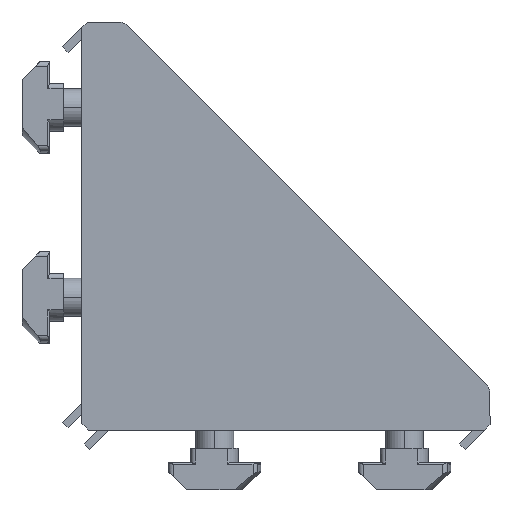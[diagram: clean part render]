
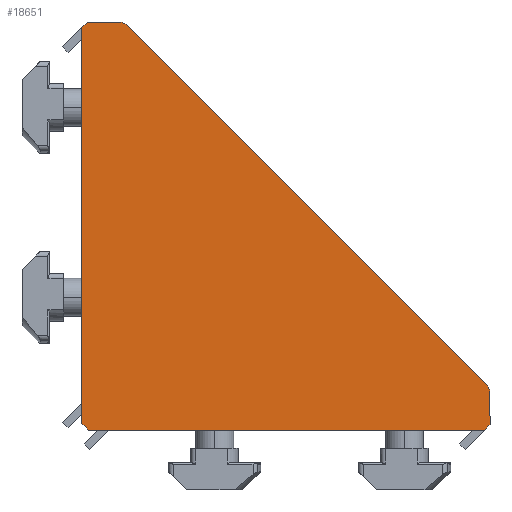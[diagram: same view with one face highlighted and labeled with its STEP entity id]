
A CAD part, left-side view. The second image highlights one B-rep face of the part: STEP entity #18651.
In plain terms, the highlighted planar face has unit normal (-1, 0, 0).
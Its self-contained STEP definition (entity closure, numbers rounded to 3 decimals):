
#61 = CARTESIAN_POINT ( 'NONE',  ( -44., 72.631, 85.414 ) ) ;
#143 = VERTEX_POINT ( 'NONE', #18752 ) ;
#1307 = CARTESIAN_POINT ( 'NONE',  ( -44., 80.822, 86. ) ) ;
#1527 = DIRECTION ( 'NONE',  ( 0., 0.707, 0.707 ) ) ;
#1631 = CARTESIAN_POINT ( 'NONE',  ( -44., 74.046, 84. ) ) ;
#2216 = EDGE_CURVE ( 'NONE', #15509, #15369, #12908, .T. ) ;
#2385 = VERTEX_POINT ( 'NONE', #14384 ) ;
#2519 = EDGE_CURVE ( 'NONE', #13224, #25805, #21765, .T. ) ;
#2779 = ORIENTED_EDGE ( 'NONE', *, *, #25426, .T. ) ;
#2787 = VECTOR ( 'NONE', #30116, 1000. ) ;
#2905 = DIRECTION ( 'NONE',  ( 0., -1., 0. ) ) ;
#3466 = DIRECTION ( 'NONE',  ( -1., 0., 0. ) ) ;
#3636 = VECTOR ( 'NONE', #13740, 1000. ) ;
#3797 = ORIENTED_EDGE ( 'NONE', *, *, #18262, .T. ) ;
#5599 = VERTEX_POINT ( 'NONE', #13646 ) ;
#5655 = CARTESIAN_POINT ( 'NONE',  ( -44., -2.883, 0. ) ) ;
#6056 = FACE_OUTER_BOUND ( 'NONE', #21539, .T. ) ;
#6239 = LINE ( 'NONE', #13423, #3636 ) ;
#6397 = DIRECTION ( 'NONE',  ( 0., 0., 1. ) ) ;
#6461 = DIRECTION ( 'NONE',  ( 0., 0., -1. ) ) ;
#6632 = EDGE_CURVE ( 'NONE', #143, #21025, #6783, .T. ) ;
#6783 = LINE ( 'NONE', #23963, #13823 ) ;
#7612 = EDGE_CURVE ( 'NONE', #12250, #2385, #24131, .T. ) ;
#7978 = DIRECTION ( 'NONE',  ( 0., -0.707, -0.707 ) ) ;
#8149 = CARTESIAN_POINT ( 'NONE',  ( -44., 81.97, 1.414 ) ) ;
#8498 = CARTESIAN_POINT ( 'NONE',  ( -44., 74.046, 84. ) ) ;
#8922 = ORIENTED_EDGE ( 'NONE', *, *, #2216, .T. ) ;
#10456 = DIRECTION ( 'NONE',  ( 0., 0., -1. ) ) ;
#10790 = PLANE ( 'NONE',  #24462 ) ;
#10987 = DIRECTION ( 'NONE',  ( 0., 0., 1. ) ) ;
#11297 = DIRECTION ( 'NONE',  ( 0., 0.707, -0.707 ) ) ;
#11609 = EDGE_CURVE ( 'NONE', #15369, #12250, #23748, .T. ) ;
#11641 = EDGE_CURVE ( 'NONE', #15509, #21025, #21397, .T. ) ;
#12250 = VERTEX_POINT ( 'NONE', #21505 ) ;
#12527 = CARTESIAN_POINT ( 'NONE',  ( -44., 74.046, 86. ) ) ;
#12728 = VERTEX_POINT ( 'NONE', #22111 ) ;
#12873 = LINE ( 'NONE', #8149, #24640 ) ;
#12888 = DIRECTION ( 'NONE',  ( 0., 0., 1. ) ) ;
#12908 = LINE ( 'NONE', #27655, #2787 ) ;
#13224 = VERTEX_POINT ( 'NONE', #15960 ) ;
#13265 = ORIENTED_EDGE ( 'NONE', *, *, #6632, .T. ) ;
#13423 = CARTESIAN_POINT ( 'NONE',  ( -44., -2.883, 0. ) ) ;
#13525 = AXIS2_PLACEMENT_3D ( 'NONE', #1631, #19323, #6397 ) ;
#13646 = CARTESIAN_POINT ( 'NONE',  ( -44., -4.03, 7.924 ) ) ;
#13740 = DIRECTION ( 'NONE',  ( 0., -0.707, 0.707 ) ) ;
#13823 = VECTOR ( 'NONE', #1527, 1000. ) ;
#14303 = CARTESIAN_POINT ( 'NONE',  ( -44., 81.97, 84. ) ) ;
#14384 = CARTESIAN_POINT ( 'NONE',  ( -44., 81.97, 1.414 ) ) ;
#15068 = CIRCLE ( 'NONE', #24497, 2. ) ;
#15326 = VECTOR ( 'NONE', #2905, 1000. ) ;
#15369 = VERTEX_POINT ( 'NONE', #28746 ) ;
#15509 = VERTEX_POINT ( 'NONE', #12527 ) ;
#15960 = CARTESIAN_POINT ( 'NONE',  ( -44., 80.555, 0. ) ) ;
#16297 = EDGE_CURVE ( 'NONE', #12728, #5599, #18309, .T. ) ;
#18262 = EDGE_CURVE ( 'NONE', #5599, #143, #15068, .T. ) ;
#18309 = LINE ( 'NONE', #23061, #31933 ) ;
#18516 = ORIENTED_EDGE ( 'NONE', *, *, #16297, .T. ) ;
#18651 = ADVANCED_FACE ( 'NONE', ( #6056 ), #10790, .T. ) ;
#18752 = CARTESIAN_POINT ( 'NONE',  ( -44., -3.445, 9.338 ) ) ;
#18865 = ORIENTED_EDGE ( 'NONE', *, *, #21566, .T. ) ;
#19082 = ORIENTED_EDGE ( 'NONE', *, *, #2519, .T. ) ;
#19323 = DIRECTION ( 'NONE',  ( 1., 0., 0. ) ) ;
#20665 = CARTESIAN_POINT ( 'NONE',  ( -44., -2.03, 7.924 ) ) ;
#21025 = VERTEX_POINT ( 'NONE', #61 ) ;
#21397 = CIRCLE ( 'NONE', #13525, 2. ) ;
#21505 = CARTESIAN_POINT ( 'NONE',  ( -44., 81.97, 84.853 ) ) ;
#21539 = EDGE_LOOP ( 'NONE', ( #3797, #13265, #28081, #8922, #30812, #24882, #2779, #19082, #18865, #18516 ) ) ;
#21566 = EDGE_CURVE ( 'NONE', #25805, #12728, #6239, .T. ) ;
#21765 = LINE ( 'NONE', #27928, #15326 ) ;
#21911 = VECTOR ( 'NONE', #11297, 1000. ) ;
#22111 = CARTESIAN_POINT ( 'NONE',  ( -44., -4.03, 1.147 ) ) ;
#23061 = CARTESIAN_POINT ( 'NONE',  ( -44., -4.03, 84. ) ) ;
#23263 = VECTOR ( 'NONE', #6461, 1000. ) ;
#23748 = LINE ( 'NONE', #1307, #21911 ) ;
#23963 = CARTESIAN_POINT ( 'NONE',  ( -44., -3.445, 9.338 ) ) ;
#24131 = LINE ( 'NONE', #14303, #23263 ) ;
#24462 = AXIS2_PLACEMENT_3D ( 'NONE', #8498, #30748, #10456 ) ;
#24497 = AXIS2_PLACEMENT_3D ( 'NONE', #20665, #3466, #10987 ) ;
#24640 = VECTOR ( 'NONE', #7978, 1000. ) ;
#24882 = ORIENTED_EDGE ( 'NONE', *, *, #7612, .T. ) ;
#25426 = EDGE_CURVE ( 'NONE', #2385, #13224, #12873, .T. ) ;
#25805 = VERTEX_POINT ( 'NONE', #5655 ) ;
#27655 = CARTESIAN_POINT ( 'NONE',  ( -44., 74.046, 86. ) ) ;
#27928 = CARTESIAN_POINT ( 'NONE',  ( -44., 74.046, 0. ) ) ;
#28081 = ORIENTED_EDGE ( 'NONE', *, *, #11641, .F. ) ;
#28746 = CARTESIAN_POINT ( 'NONE',  ( -44., 80.822, 86. ) ) ;
#30116 = DIRECTION ( 'NONE',  ( 0., 1., 0. ) ) ;
#30748 = DIRECTION ( 'NONE',  ( -1., 0., 0. ) ) ;
#30812 = ORIENTED_EDGE ( 'NONE', *, *, #11609, .T. ) ;
#31933 = VECTOR ( 'NONE', #12888, 1000. ) ;
